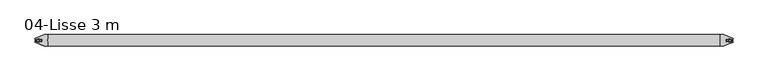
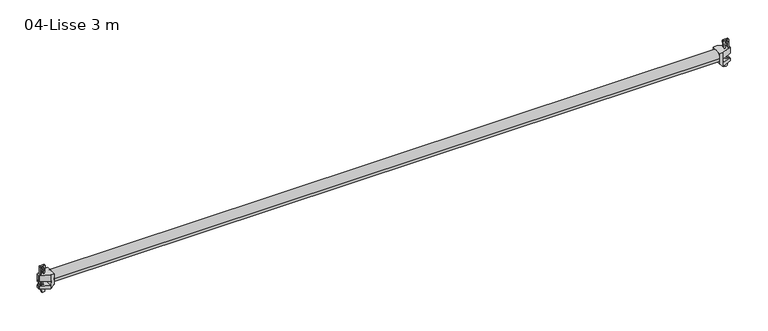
"""IFC4 building model written with IfcOpenShell, lengths in millimetres: proxy geometry, 04-Lisse 3 m : JPA Lisse Galva."""

from ifc_helpers import new_model, si_unit, point, frame, frame_2d, origin, place, context, project, spatial, polyline, circle_curve, ellipse_curve, trimmed, segment, composite_curve, outline, extrude, source, transform, mapped, element, save
from ifc_brep_helpers import plane_surface, cylinder_surface, revolved_surface, advanced_brep


def proxy_04_lisse_3_m_913477d2(model_context):
    return source(origin(), model_context, "Body", "SolidModel", [
        extrude(outline(composite_curve([segment(polyline([(30.0559866, 2969.2405729), (30.0559866, 2950.8224893)]), True, "CONTINUOUS"), segment(trimmed(circle_curve(frame_2d((27.9586511, 2951.1453232)), 2.1220363), [point((30.0559866, 2950.8224893))], [point((27.7368379, 2949.0349116))], False, "CARTESIAN"), True, "CONTINUOUS"), segment(polyline([(27.7368379, 2949.0349116), (-34.1039294, 2955.5346382), (-34.1039294, 2959.3897705), (15.3851783, 2954.1882557)]), True, "CONTINUOUS"), segment(trimmed(circle_curve(frame_2d((15.3851783, 2956.3590344)), 2.1707788), [point((15.3851783, 2954.1882557))], [point((17.5559571, 2956.3590344))], True, "CARTESIAN"), True, "CONTINUOUS"), segment(polyline([(17.5559571, 2956.3590344), (17.5559571, 2965.3988864)]), True, "CONTINUOUS"), segment(trimmed(circle_curve(frame_2d((15.3935931, 2965.3988864)), 2.162364), [point((17.5559571, 2965.3988864))], [point((15.3935931, 2967.5612504))], True, "CARTESIAN"), True, "CONTINUOUS"), segment(polyline([(15.3935931, 2967.5612504), (-34.1039294, 2967.5612504), (-34.1039294, 2971.4012504), (27.8953091, 2971.4012504)]), True, "CONTINUOUS"), segment(trimmed(circle_curve(frame_2d((27.8953091, 2969.2405729)), 2.1606775), [point((27.8953091, 2971.4012504))], [point((30.0559866, 2969.2405729))], False, "CARTESIAN"), True, "CONTINUOUS")], self_intersect=False), holes=[composite_curve([segment(trimmed(circle_curve(frame_2d((22.709669, 2961.5507539)), 3.8584192), [point((22.709669, 2965.4091731))], [point((22.709669, 2957.6923348))], True, "CARTESIAN"), True, "CONTINUOUS"), segment(trimmed(circle_curve(frame_2d((22.709669, 2961.5507539)), 3.8584192), [point((22.709669, 2957.6923348))], [point((22.709669, 2965.4091731))], True, "CARTESIAN"), True, "CONTINUOUS")], self_intersect=False)]), frame((0.0, -4.92044, 0.0), z_axis=(0.0, 1.0, 0.0), x_axis=(0.0, 0.0, 1.0)), (0.0, 0.0, 1.0), 7.5),
        extrude(outline(composite_curve([segment(polyline([(-86.5617303, 2951.139074), (-88.1008015, 2959.8675803)]), True, "CONTINUOUS"), segment(trimmed(circle_curve(frame_2d((-83.2111425, 2959.8675803)), 4.889659), [point((-88.1008015, 2959.8675803))], [point((-84.0602229, 2964.6829544))], False, "CARTESIAN"), True, "CONTINUOUS"), segment(polyline([(-84.0602229, 2964.6829544), (-53.7181948, 2970.0330726), (-53.0377938, 2957.0502485), (-86.5617303, 2951.139074)]), True, "CONTINUOUS")], self_intersect=False)), frame((0.0, -4.92044, 0.0), z_axis=(0.0, 1.0, 0.0), x_axis=(0.0, 0.0, 1.0)), (0.0, 0.0, 1.0), 7.5),
        advanced_brep(
        [(2937.8203998, 23.8029452, -6.1039294), (2922.6391277, 23.8029452, -6.1039294), (2922.6391277, -23.8029452, -6.1039294), (2937.8203998, -23.8029452, -6.1039294), (2977.1092204, -7.5511063, -6.1039294), (2975.6716098, 0.0, -6.1039294), (2977.1092204, 7.5511063, -6.1039294), (2937.8203998, 23.8029452, -68.1039294), (2977.1092204, 7.5511063, -68.1039294), (2975.6716098, 0.0, -68.1039294), (2977.1092204, -7.5511063, -68.1039294), (2937.8203998, -23.8029452, -68.1039294), (2933.9520332, -23.8029452, -68.1039294), (2933.9520332, 23.8029452, -68.1039294), (2977.1092204, 7.5511063, -34.1039294), (2937.8203998, 23.8029452, -34.1039294), (2937.8203998, 23.8029452, -46.831895), (2939.9125786, 22.9375144, -52.1184527), (2974.7434645, 8.5297023, -53.943862), (2977.1092204, 7.5511063, -56.3096179), (2975.6716098, 0.0, -34.1039294), (2975.6716098, 0.0, -54.8720074), (2977.1092204, -7.5511063, -34.1039294), (2977.1092204, -7.5511063, -56.3096179), (2937.8203998, -23.8029452, -34.1039294), (2974.7434645, -8.5297023, -53.943862), (2939.9125786, -22.9375144, -52.1184527), (2937.8203998, -23.8029452, -46.831895), (2922.6391277, -23.8029452, -54.0827798), (2924.1343185, -23.8029452, -54.0827798), (2935.5511063, -23.8029452, -41.0978005), (2935.5511063, -23.8029452, -34.1039294), (2922.6391277, 23.8029452, -54.0827798), (2935.5511063, 23.8029452, -34.1039294), (2935.5511063, 23.8029452, -41.0978005), (2924.1343185, 23.8029452, -54.0827798)],
        [
            (0, 1),
            (1, 2),
            (2, 3),
            (3, 4),
            (4, 5, circle_curve(frame((2995.4827463, -0.1406769, -6.1039294), z_axis=(0.0, 0.0, -1.0), x_axis=(-1.0, 0.0, 0.0)), 19.8116359)),
            (5, 6, circle_curve(frame((2995.4827463, 0.1406769, -6.1039294), z_axis=(0.0, 0.0, -1.0), x_axis=(-1.0, 0.0, 0.0)), 19.8116359)),
            (6, 0),
            (7, 8),
            (8, 9, circle_curve(frame((2995.4827463, 0.1406769, -68.1039294), z_axis=(0.0, 0.0, 1.0), x_axis=(-1.0, 0.0, 0.0)), 19.8116359)),
            (9, 10, circle_curve(frame((2995.4827463, -0.1406769, -68.1039294), z_axis=(0.0, 0.0, 1.0), x_axis=(-1.0, 0.0, 0.0)), 19.8116359)),
            (10, 11),
            (11, 12),
            (12, 13),
            (13, 7),
            (6, 14),
            (14, 15),
            (15, 0),
            (7, 16),
            (16, 17),
            (17, 18),
            (18, 19),
            (19, 8),
            (5, 20),
            (20, 14, circle_curve(frame((2995.4827463, 0.1406769, -34.1039294), z_axis=(0.0, 0.0, -1.0), x_axis=(-1.0, 0.0, 0.0)), 19.8116359)),
            (19, 21, ellipse_curve(frame((2995.4827463, 0.1406769, -74.6831438), z_axis=(0.7071067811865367, 0.0, 0.7071067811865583), x_axis=(0.7071067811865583, 0.0, -0.7071067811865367)), 28.0178842, 19.8116359)),
            (21, 9),
            (4, 22),
            (22, 20, circle_curve(frame((2995.4827463, -0.1406769, -34.1039294), z_axis=(0.0, 0.0, -1.0), x_axis=(-1.0, 0.0, 0.0)), 19.8116359)),
            (21, 23, ellipse_curve(frame((2995.4827463, -0.1406769, -74.6831438), z_axis=(0.7071067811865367, 0.0, 0.7071067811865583), x_axis=(0.7071067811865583, 0.0, -0.7071067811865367)), 28.0178842, 19.8116359)),
            (23, 10),
            (3, 24),
            (24, 22),
            (23, 25),
            (25, 26),
            (26, 27),
            (27, 11),
            (2, 28),
            (28, 29),
            (29, 12),
            (27, 30),
            (30, 31),
            (31, 24),
            (1, 32),
            (32, 28),
            (15, 33),
            (33, 34),
            (34, 16),
            (13, 35),
            (35, 32),
            (35, 29),
            (18, 25),
            (31, 33),
            (30, 34),
            (26, 17),
        ],
        [
            plane_surface(frame((2922.6391277, 23.8029452, -6.1039294), z_axis=(0.0, 0.0, 1.0), x_axis=(-1.0, 0.0, 0.0))),
            plane_surface(frame((2922.6391277, 23.8029452, -68.1039294), z_axis=(0.0, 0.0, -1.0), x_axis=(1.0, 0.0, 0.0))),
            plane_surface(frame((2977.1092204, 7.5511063, -6.1039294), z_axis=(0.3822392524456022, 0.924063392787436, 0.0), x_axis=(0.0, 0.0, -1.0))),
            revolved_surface(polyline([(2975.6711104, 0.1406769, -34.1039294), (2975.6711104, 0.1406769, -6.103929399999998)]), (2995.4827463, 0.1406769, -68.1039294), (0.0, 0.0, -1.0)),
            revolved_surface(polyline([(2975.6711104, 0.1406769, -94.49477971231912), (2975.6711104, 0.1406769, -54.87150788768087)]), (2995.4827463, 0.1406769, -68.1039294), (0.0, 0.0, -1.0)),
            revolved_surface(polyline([(2975.6711104, -0.1406769, -34.1039294), (2975.6711104, -0.1406769, -6.103929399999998)]), (2995.4827463, -0.1406769, -68.1039294), (0.0, 0.0, -1.0)),
            revolved_surface(polyline([(2975.6711104, -0.1406769, -94.49477971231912), (2975.6711104, -0.1406769, -54.87150788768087)]), (2995.4827463, -0.1406769, -68.1039294), (0.0, 0.0, -1.0)),
            plane_surface(frame((2937.8203998, -23.8029452, -6.1039294), z_axis=(0.3822392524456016, -0.9240633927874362, 0.0), x_axis=(0.0, 0.0, -1.0))),
            plane_surface(frame((2922.6391277, -23.8029452, -6.1039294), z_axis=(0.0, -1.0, 0.0), x_axis=(0.0, 0.0, -1.0))),
            plane_surface(frame((2922.6391277, 23.8029452, -6.1039294), z_axis=(-1.0, 0.0, 0.0), x_axis=(0.0, 0.0, -1.0))),
            plane_surface(frame((2937.8203998, 23.8029452, -6.1039294), z_axis=(0.0, 1.0, 0.0), x_axis=(0.0, 0.0, -1.0))),
            plane_surface(frame((2924.1343185, -49.3768281, -54.0827798), z_axis=(0.0, 0.0, -1.0), x_axis=(0.0, 1.0, 0.0))),
            plane_surface(frame((2935.6206564, -49.3768281, -70.4869703), z_axis=(-0.8191520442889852, 0.0, -0.5735764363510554), x_axis=(0.0, 1.0, 0.0))),
            plane_surface(frame((2974.7434645, -250.0, -53.943862), z_axis=(0.7071067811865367, 0.0, 0.7071067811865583), x_axis=(0.0, 1.0, 0.0))),
            plane_surface(frame((2977.5136246, -250.0, -34.1039294), z_axis=(0.0, 0.0, -1.0), x_axis=(0.0, 1.0, 0.0))),
            plane_surface(frame((2935.5511063, -250.0, -34.1039294), z_axis=(1.0, 0.0, 0.0), x_axis=(0.0, 1.0, 0.0))),
            plane_surface(frame((2935.5511063, -250.0, -41.0978005), z_axis=(0.9298317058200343, 0.0, 0.36798505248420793), x_axis=(0.0, 1.0, 0.0))),
            plane_surface(frame((2939.9125786, -250.0, -52.1184527), z_axis=(0.05233595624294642, 0.0, 0.9986295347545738), x_axis=(0.0, 1.0, 0.0))),
        ],
        [
            (0, [[1, 2, 3, 4, 5, 6, 7]]),
            (1, [[8, 9, 10, 11, 12, 13, 14]]),
            (2, [[-7, 15, 16, 17]]),
            (2, [[-8, 18, 19, 20, 21, 22]]),
            (3, [[-6, 23, 24, -15]]),
            (4, [[-9, -22, 25, 26]]),
            (5, [[-5, 27, 28, -23]]),
            (6, [[-10, -26, 29, 30]]),
            (7, [[-4, 31, 32, -27]]),
            (7, [[-11, -30, 33, 34, 35, 36]]),
            (8, [[-3, 37, 38, 39, -12, -36, 40, 41, 42, -31]]),
            (9, [[-2, 43, 44, -37]]),
            (10, [[-1, -17, 45, 46, 47, -18, -14, 48, 49, -43]]),
            (11, [[50, -38, -44, -49]]),
            (12, [[-50, -48, -13, -39]]),
            (13, [[51, -33, -29, -25, -21]]),
            (14, [[52, -45, -16, -24, -28, -32, -42]]),
            (15, [[-52, -41, 53, -46]]),
            (16, [[-53, -40, -35, 54, -19, -47]]),
            (17, [[-51, -20, -54, -34]]),
        ],
    ),
        extrude(outline(composite_curve([segment(trimmed(circle_curve(frame_2d((22.709669, 2961.5507539)), 3.8584192), [point((22.709669, 2957.6923348))], [point((22.709669, 2965.4091731))], False, "CARTESIAN"), True, "CONTINUOUS"), segment(trimmed(circle_curve(frame_2d((22.709669, 2961.5507539)), 3.8584192), [point((22.709669, 2965.4091731))], [point((22.709669, 2957.6923348))], False, "CARTESIAN"), True, "CONTINUOUS")], self_intersect=False)), frame((0.0, -7.92044, 0.0), z_axis=(0.0, 1.0, 0.0), x_axis=(0.0, 0.0, 1.0)), (0.0, 0.0, 1.0), 13.5),
        extrude(outline(composite_curve([segment(polyline([(23.5, 7.1698137), (37.9373581, 13.151297)]), True, "CONTINUOUS"), segment(trimmed(circle_curve(frame_2d((40.2365018, 7.6019107)), 6.0068087), [point((37.9373581, 13.151297))], [point((46.1300628, 8.762811))], False, "CARTESIAN"), True, "CONTINUOUS"), segment(trimmed(circle_curve(frame_2d((0.6271733, -0.200245)), 46.3772501), [point((46.1300628, 8.762811))], [point((46.9210391, 2.57956))], False, "CARTESIAN"), True, "CONTINUOUS"), segment(polyline([(46.9210391, 2.57956), (43.8403003, 2.57956), (39.9850248, 2.57956), (32.4387496, 2.57956), (28.5987496, 2.57956), (28.5987496, 0.0), (24.6512409, 0.0)]), True, "CONTINUOUS"), segment(trimmed(circle_curve(frame_2d((0.5020711, -0.200245)), 24.15), [point((24.6512409, 0.0))], [point((23.5, 7.1698137))], True, "CARTESIAN"), True, "CONTINUOUS")], self_intersect=False)), frame((0.0, 0.0, -40.1039294), z_axis=(0.0, 0.0, 1.0), x_axis=(1.0, 0.0, 0.0)), (0.0, 0.0, 1.0), 6.0),
        advanced_brep(
        [(30.7594271, -4.92044, 30.0559866), (28.5987496, -4.92044, 27.8953091), (28.5987496, -4.92044, -34.1039294), (32.4387496, -4.92044, -34.1039294), (32.4387496, -4.92044, 15.3935931), (34.6011136, -4.92044, 17.5559571), (43.6409656, -4.92044, 17.5559571), (45.8117443, -4.92044, 15.3851783), (40.6102295, -4.92044, -34.1039294), (44.4653618, -4.92044, -34.1039294), (50.9650884, -4.92044, 27.7368379), (49.1775107, -4.92044, 30.0559866), (34.5908269, -4.92044, 22.709669), (42.3076652, -4.92044, 22.709669), (35.3170456, -4.92044, -84.0602229), (40.1324197, -4.92044, -88.1008015), (48.860926, -4.92044, -86.5617303), (42.9497515, -4.92044, -53.0377938), (29.9669274, -4.92044, -53.7181948), (30.7594271, 2.57956, 30.0559866), (49.1775107, 2.57956, 30.0559866), (50.9650884, 2.57956, 27.7368379), (42.6525106, 2.57956, -51.3520566), (48.860926, 2.57956, -86.5617303), (40.1324197, 2.57956, -88.1008015), (35.3170456, 2.57956, -84.0602229), (28.5987496, 2.57956, -45.9588727), (28.5987496, 2.57956, 27.8953091), (32.4387496, 2.57956, 15.3935931), (32.4387496, 2.57956, -51.5938159), (36.2832188, 2.57956, -51.795296), (38.9102025, 2.57956, -50.2786063), (45.8117443, 2.57956, 15.3851783), (43.6409656, 2.57956, 17.5559571), (34.6011136, 2.57956, 17.5559571), (34.5908269, 2.57956, 22.709669), (42.3076652, 2.57956, 22.709669), (28.5987496, 0.0, -45.9588727), (28.5987496, 0.0, -34.1039294), (29.9669274, 0.0, -53.7181948), (42.6525106, 0.0, -51.3520566), (42.9497515, 0.0, -53.0377938), (44.4653618, 0.0, -34.1039294), (38.9102025, 0.0, -50.2786063), (40.6102295, 0.0, -34.1039294), (36.2832188, 0.0, -51.795296), (32.4387496, 0.0, -51.5938159), (32.4387496, 0.0, -34.1039294)],
        [
            (0, 1, circle_curve(frame((30.7594271, -4.92044, 27.8953091), z_axis=(0.0, -1.0, 0.0), x_axis=(1.0, 0.0, 0.0)), 2.1606775)),
            (1, 2),
            (2, 3),
            (3, 4),
            (4, 5, circle_curve(frame((34.6011136, -4.92044, 15.3935931), z_axis=(0.0, 1.0, 0.0), x_axis=(1.0, 0.0, 0.0)), 2.162364)),
            (5, 6),
            (6, 7, circle_curve(frame((43.6409656, -4.92044, 15.3851783), z_axis=(0.0, 1.0, 0.0), x_axis=(1.0, 0.0, 0.0)), 2.1707788)),
            (7, 8),
            (8, 9),
            (9, 10),
            (10, 11, circle_curve(frame((48.8546768, -4.92044, 27.9586511), z_axis=(0.0, -1.0, 0.0), x_axis=(1.0, 0.0, 0.0)), 2.1220363)),
            (11, 0),
            (12, 13, circle_curve(frame((38.4492461, -4.92044, 22.709669), z_axis=(0.0, 1.0, 0.0), x_axis=(1.0, 0.0, 0.0)), 3.8584192)),
            (13, 12, circle_curve(frame((38.4492461, -4.92044, 22.709669), z_axis=(0.0, 1.0, 0.0), x_axis=(1.0, 0.0, 0.0)), 3.8584192)),
            (14, 15, circle_curve(frame((40.1324197, -4.92044, -83.2111425), z_axis=(0.0, -1.0, 0.0), x_axis=(1.0, 0.0, 0.0)), 4.889659)),
            (15, 16),
            (16, 17),
            (17, 18),
            (18, 14),
            (19, 20),
            (20, 21, circle_curve(frame((48.8546768, 2.57956, 27.9586511), z_axis=(0.0, 1.0, 0.0), x_axis=(1.0, 0.0, 0.0)), 2.1220363)),
            (21, 22),
            (22, 23),
            (23, 24),
            (24, 25, circle_curve(frame((40.1324197, 2.57956, -83.2111425), z_axis=(0.0, 1.0, 0.0), x_axis=(1.0, 0.0, 0.0)), 4.889659)),
            (25, 26),
            (26, 27),
            (27, 19, circle_curve(frame((30.7594271, 2.57956, 27.8953091), z_axis=(0.0, 1.0, 0.0), x_axis=(1.0, 0.0, 0.0)), 2.1606775)),
            (28, 29),
            (29, 30),
            (30, 31, circle_curve(frame((36.4289619, 2.57956, -49.0143511), z_axis=(0.0, -1.0, 0.0), x_axis=(1.0, 0.0, 0.0)), 2.7847613)),
            (31, 32),
            (32, 33, circle_curve(frame((43.6409656, 2.57956, 15.3851783), z_axis=(0.0, -1.0, 0.0), x_axis=(1.0, 0.0, 0.0)), 2.1707788)),
            (33, 34),
            (34, 28, circle_curve(frame((34.6011136, 2.57956, 15.3935931), z_axis=(0.0, -1.0, 0.0), x_axis=(1.0, 0.0, 0.0)), 2.162364)),
            (35, 36, circle_curve(frame((38.4492461, 2.57956, 22.709669), z_axis=(0.0, -1.0, 0.0), x_axis=(1.0, 0.0, 0.0)), 3.8584192)),
            (36, 35, circle_curve(frame((38.4492461, 2.57956, 22.709669), z_axis=(0.0, -1.0, 0.0), x_axis=(1.0, 0.0, 0.0)), 3.8584192)),
            (0, 19),
            (27, 1),
            (26, 37),
            (37, 38),
            (38, 2),
            (25, 14),
            (18, 39),
            (39, 37),
            (24, 15),
            (23, 16),
            (22, 40),
            (40, 41),
            (41, 17),
            (21, 10),
            (9, 42),
            (42, 40),
            (20, 11),
            (4, 28),
            (34, 5),
            (33, 6),
            (32, 7),
            (31, 43),
            (43, 44),
            (44, 8),
            (30, 45),
            (45, 43, circle_curve(frame((36.4289619, 0.0, -49.0143511), z_axis=(0.0, -1.0, 0.0), x_axis=(1.0, 0.0, 0.0)), 2.7847613)),
            (29, 46),
            (46, 45),
            (3, 47),
            (47, 46),
            (12, 35),
            (36, 13),
            (39, 41),
            (42, 44),
            (47, 38),
        ],
        [
            plane_surface(frame((32.9201046, -4.92044, 27.8953091), z_axis=(0.0, -1.0, 0.0), x_axis=(0.0, 0.0, 1.0))),
            plane_surface(frame((32.9201046, 2.57956, 27.8953091), z_axis=(0.0, 1.0, 0.0), x_axis=(0.0, 0.0, -1.0))),
            cylinder_surface(frame((30.7594271, 2.57956, 27.8953091), z_axis=(0.0, -1.0, 0.0), x_axis=(1.0, 0.0, 0.0)), 2.1606775),
            plane_surface(frame((28.5987496, -4.92044, 27.8953091), z_axis=(-1.0, 0.0, 0.0), x_axis=(0.0, 1.0, 0.0))),
            plane_surface(frame((28.5987496, -4.92044, -45.9588727), z_axis=(-0.9848077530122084, 0.0, -0.17364817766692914), x_axis=(0.0, 1.0, 0.0))),
            cylinder_surface(frame((40.1324197, 2.57956, -83.2111425), z_axis=(0.0, -1.0, 0.0), x_axis=(1.0, 0.0, 0.0)), 4.889659),
            plane_surface(frame((40.1324197, -4.92044, -88.1008015), z_axis=(0.1736481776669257, 0.0, -0.9848077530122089), x_axis=(0.0, 1.0, 0.0))),
            plane_surface(frame((48.860926, -4.92044, -86.5617303), z_axis=(0.9848077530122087, 0.0, 0.1736481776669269), x_axis=(0.0, 1.0, 0.0))),
            plane_surface(frame((42.6525106, -4.92044, -51.3520566), z_axis=(0.9945218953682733, 0.0, -0.10452846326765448), x_axis=(0.0, 1.0, 0.0))),
            cylinder_surface(frame((48.8546768, 2.57956, 27.9586511), z_axis=(0.0, -1.0, 0.0), x_axis=(1.0, 0.0, 0.0)), 2.1220363),
            plane_surface(frame((49.1775107, -4.92044, 30.0559866), z_axis=(0.0, 0.0, 1.0), x_axis=(0.0, 1.0, 0.0))),
            revolved_surface(polyline([(36.7634776, 2.57956, 15.3935931), (36.7634776, -4.92044, 15.3935931)]), (34.6011136, 0.0, 15.3935931), (0.0, 1.0, 0.0)),
            plane_surface(frame((34.6011136, -4.92044, 17.5559571), z_axis=(0.0, 0.0, -1.0), x_axis=(0.0, 1.0, 0.0))),
            revolved_surface(polyline([(45.8117444, 2.57956, 15.3851783), (45.8117444, -4.92044, 15.3851783)]), (43.6409656, 0.0, 15.3851783), (0.0, 1.0, 0.0)),
            plane_surface(frame((45.8117443, -4.92044, 15.3851783), z_axis=(-0.9945218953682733, 0.0, 0.10452846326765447), x_axis=(0.0, 1.0, 0.0))),
            revolved_surface(polyline([(39.2137232, 2.57956, -49.0143511), (39.2137232, 0.0, -49.0143511)]), (36.4289619, 0.0, -49.0143511), (0.0, 1.0, 0.0)),
            plane_surface(frame((36.2832188, -4.92044, -51.795296), z_axis=(0.052335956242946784, 0.0, 0.9986295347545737), x_axis=(0.0, 1.0, 0.0))),
            plane_surface(frame((32.4387496, -4.92044, -51.5938159), z_axis=(1.0, 0.0, 0.0), x_axis=(0.0, 1.0, 0.0))),
            revolved_surface(polyline([(42.307665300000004, 2.57956, 22.709669), (42.307665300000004, -4.92044, 22.709669)]), (38.4492461, 0.0, 22.709669), (0.0, 1.0, 0.0)),
            plane_surface(frame((19.8532979, 0.0, -34.1039294), z_axis=(0.0, -1.0, 0.0), x_axis=(0.0, 0.0, 1.0))),
            plane_surface(frame((25.6609397, -250.0, -53.943862), z_axis=(-0.05233595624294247, 0.0, 0.998629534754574), x_axis=(0.0, 1.0, 0.0))),
            plane_surface(frame((64.8532979, -250.0, -34.1039294), z_axis=(0.0, 0.0, -1.0), x_axis=(0.0, 1.0, 0.0))),
        ],
        [
            (0, [[1, 2, 3, 4, 5, 6, 7, 8, 9, 10, 11, 12], [13, 14]]),
            (0, [[15, 16, 17, 18, 19]]),
            (1, [[20, 21, 22, 23, 24, 25, 26, 27, 28], [29, 30, 31, 32, 33, 34, 35], [36, 37]]),
            (2, [[-1, 38, -28, 39]]),
            (3, [[-27, 40, 41, 42, -2, -39]]),
            (4, [[-26, 43, -19, 44, 45, -40]]),
            (5, [[-15, -43, -25, 46]]),
            (6, [[-16, -46, -24, 47]]),
            (7, [[-23, 48, 49, 50, -17, -47]]),
            (8, [[-22, 51, -10, 52, 53, -48]]),
            (9, [[-11, -51, -21, 54]]),
            (10, [[-12, -54, -20, -38]]),
            (11, [[-5, 55, -35, 56]]),
            (12, [[-6, -56, -34, 57]]),
            (13, [[-7, -57, -33, 58]]),
            (14, [[-32, 59, 60, 61, -8, -58]]),
            (15, [[-31, 62, 63, -59]]),
            (16, [[-30, 64, 65, -62]]),
            (17, [[-29, -55, -4, 66, 67, -64]]),
            (18, [[-13, 68, -37, 69]]),
            (18, [[-14, -69, -36, -68]]),
            (19, [[70, -49, -53, 71, -60, -63, -65, -67, 72, -41, -45]]),
            (20, [[-70, -44, -18, -50]]),
            (21, [[-71, -52, -9, -61]]),
            (21, [[-72, -66, -3, -42]]),
        ],
    ),
        extrude(outline(composite_curve([segment(trimmed(circle_curve(frame_2d((0.0, -29.9068746)), 23.9423125), [point((-23.9423125, -29.9068746))], [point((23.9423125, -29.9068746))], False, "CARTESIAN"), True, "CONTINUOUS"), segment(trimmed(circle_curve(frame_2d((0.0, -29.9068746)), 23.9423125), [point((23.9423125, -29.9068746))], [point((-23.9423125, -29.9068746))], False, "CARTESIAN"), True, "CONTINUOUS")], self_intersect=False)), frame((77.3608723, 0.0, 0.0), z_axis=(1.0, 0.0, 0.0), x_axis=(0.0, 1.0, 0.0)), (0.0, 0.0, 1.0), 2845.2782554),
        extrude(outline(composite_curve([segment(trimmed(circle_curve(frame_2d((22.709669, 38.4492461)), 3.8584192), [point((22.709669, 42.3076652))], [point((22.709669, 34.5908269))], False, "CARTESIAN"), True, "CONTINUOUS"), segment(trimmed(circle_curve(frame_2d((22.709669, 38.4492461)), 3.8584192), [point((22.709669, 34.5908269))], [point((22.709669, 42.3076652))], False, "CARTESIAN"), True, "CONTINUOUS")], self_intersect=False)), frame((0.0, -7.92044, 0.0), z_axis=(0.0, 1.0, 0.0), x_axis=(0.0, 0.0, 1.0)), (0.0, 0.0, 1.0), 13.5),
        advanced_brep(
        [(62.1796002, 23.8029452, -6.1039294), (22.8907796, 7.5511063, -6.1039294), (24.3283902, 0.0, -6.1039294), (22.8907796, -7.5511063, -6.1039294), (62.1796002, -23.8029452, -6.1039294), (77.3608723, -23.8029452, -6.1039294), (77.3608723, 23.8029452, -6.1039294), (62.1796002, -23.8029452, -68.1039294), (22.8907796, -7.5511063, -68.1039294), (24.3283902, 0.0, -68.1039294), (22.8907796, 7.5511063, -68.1039294), (62.1796002, 23.8029452, -68.1039294), (66.0479668, 23.8029452, -68.1039294), (66.0479668, -23.8029452, -68.1039294), (62.1796002, 23.8029452, -34.1039294), (22.8907796, 7.5511063, -34.1039294), (22.8907796, 7.5511063, -56.7140221), (25.6609397, 8.6969843, -53.943862), (60.4918255, 23.1047964, -52.1184527), (62.1796002, 23.8029452, -47.8537512), (24.3283902, 0.0, -34.1039294), (24.3283902, 0.0, -55.2764116), (22.8907796, -7.5511063, -34.1039294), (22.8907796, -7.5511063, -56.7140221), (62.1796002, -23.8029452, -34.1039294), (62.1796002, -23.8029452, -47.8537512), (60.4918255, -23.1047964, -52.1184527), (25.6609397, -8.6969843, -53.943862), (64.8532979, -23.8029452, -34.1039294), (64.8532979, -23.8029452, -41.0978005), (75.8656815, -23.8029452, -54.0827798), (77.3608723, -23.8029452, -54.0827798), (77.3608723, 23.8029452, -54.0827798), (75.8656815, 23.8029452, -54.0827798), (64.8532979, 23.8029452, -41.0978005), (64.8532979, 23.8029452, -34.1039294), (64.8532979, 0.0, -34.1039294), (25.6609397, 0.0, -53.943862), (60.4918255, 0.0, -52.1184527), (64.8532979, 0.0, -41.0978005)],
        [
            (0, 1),
            (1, 2, circle_curve(frame((4.5172537, 0.1406769, -6.1039294), z_axis=(0.0, 0.0, -1.0), x_axis=(1.0, 0.0, 0.0)), 19.8116359)),
            (2, 3, circle_curve(frame((4.5172537, -0.1406769, -6.1039294), z_axis=(0.0, 0.0, -1.0), x_axis=(1.0, 0.0, 0.0)), 19.8116359)),
            (3, 4),
            (4, 5),
            (5, 6),
            (6, 0),
            (7, 8),
            (8, 9, circle_curve(frame((4.5172537, -0.1406769, -68.1039294), z_axis=(0.0, 0.0, 1.0), x_axis=(1.0, 0.0, 0.0)), 19.8116359)),
            (9, 10, circle_curve(frame((4.5172537, 0.1406769, -68.1039294), z_axis=(0.0, 0.0, 1.0), x_axis=(1.0, 0.0, 0.0)), 19.8116359)),
            (10, 11),
            (11, 12),
            (12, 13),
            (13, 7),
            (0, 14),
            (14, 15),
            (15, 1),
            (10, 16),
            (16, 17),
            (17, 18),
            (18, 19),
            (19, 11),
            (15, 20, circle_curve(frame((4.5172537, 0.1406769, -34.1039294), z_axis=(0.0, 0.0, -1.0), x_axis=(1.0, 0.0, 0.0)), 19.8116359)),
            (20, 2),
            (9, 21),
            (21, 16, ellipse_curve(frame((4.5172537, 0.1406769, -75.087548), z_axis=(-0.7071067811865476, 0.0, 0.7071067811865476), x_axis=(-0.7071067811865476, 0.0, -0.7071067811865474)), 28.0178842, 19.8116359)),
            (20, 22, circle_curve(frame((4.5172537, -0.1406769, -34.1039294), z_axis=(0.0, 0.0, -1.0), x_axis=(1.0, 0.0, 0.0)), 19.8116359)),
            (22, 3),
            (8, 23),
            (23, 21, ellipse_curve(frame((4.5172537, -0.1406769, -75.087548), z_axis=(-0.7071067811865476, 0.0, 0.7071067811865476), x_axis=(-0.7071067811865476, 0.0, -0.7071067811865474)), 28.0178842, 19.8116359)),
            (22, 24),
            (24, 4),
            (7, 25),
            (25, 26),
            (26, 27),
            (27, 23),
            (24, 28),
            (28, 29),
            (29, 25),
            (13, 30),
            (30, 31),
            (31, 5),
            (31, 32),
            (32, 6),
            (32, 33),
            (33, 12),
            (19, 34),
            (34, 35),
            (35, 14),
            (30, 33),
            (35, 36),
            (36, 28),
            (27, 37),
            (37, 17),
            (26, 38),
            (38, 18),
            (29, 39),
            (39, 34),
        ],
        [
            plane_surface(frame((64.4727058, 24.7514894, -6.1039294), z_axis=(0.0, 0.0, 1.0000000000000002), x_axis=(-0.9240633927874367, -0.38223925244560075, 0.0))),
            plane_surface(frame((64.4727058, 24.7514894, -68.1039294), z_axis=(0.0, 0.0, -1.0000000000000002), x_axis=(0.9240633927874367, 0.38223925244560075, 0.0))),
            plane_surface(frame((62.1796002, 23.8029452, -6.1039294), z_axis=(-0.38223925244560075, 0.9240633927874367, 0.0), x_axis=(0.0, 0.0, -1.0))),
            revolved_surface(polyline([(24.3288896, 0.1406769, -34.1039294), (24.3288896, 0.1406769, -6.103929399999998)]), (4.5172537, 0.1406769, -68.1039294), (0.0, 0.0, -1.0)),
            revolved_surface(polyline([(24.3288896, 0.1406769, -94.89918391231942), (24.3288896, 0.1406769, -55.275912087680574)]), (4.5172537, 0.1406769, -68.1039294), (0.0, 0.0, -1.0)),
            revolved_surface(polyline([(24.3288896, -0.1406769, -34.1039294), (24.3288896, -0.1406769, -6.103929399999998)]), (4.5172537, -0.1406769, -68.1039294), (0.0, 0.0, -1.0)),
            revolved_surface(polyline([(24.3288896, -0.1406769, -94.89918391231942), (24.3288896, -0.1406769, -55.275912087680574)]), (4.5172537, -0.1406769, -68.1039294), (0.0, 0.0, -1.0)),
            plane_surface(frame((22.8907796, -7.5511063, -6.1039294), z_axis=(-0.3822392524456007, -0.9240633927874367, 0.0), x_axis=(0.0, 0.0, -1.0))),
            plane_surface(frame((62.1796002, -23.8029452, -6.1039294), z_axis=(0.0, -1.0, 0.0), x_axis=(0.0, 0.0, -1.0))),
            plane_surface(frame((77.3608723, -23.8029452, -6.1039294), z_axis=(1.0, 0.0, 0.0), x_axis=(0.0, 0.0, -1.0))),
            plane_surface(frame((77.3608723, 23.8029452, -6.1039294), z_axis=(0.0, 1.0, 0.0), x_axis=(0.0, 0.0, -1.0))),
            plane_surface(frame((79.3793436, -49.3768281, -54.0827798), z_axis=(0.0, 0.0, -1.0), x_axis=(0.0, 1.0, 0.0))),
            plane_surface(frame((75.8656815, -49.3768281, -54.0827798), z_axis=(0.8191520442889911, 0.0, -0.5735764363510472), x_axis=(0.0, 1.0, 0.0))),
            plane_surface(frame((64.8532979, -49.3768281, -34.1039294), z_axis=(0.0, 0.0, -1.0), x_axis=(0.0, 1.0, 0.0))),
            plane_surface(frame((21.4312124, -49.3768281, -58.1735894), z_axis=(-0.7071067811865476, 0.0, 0.7071067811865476), x_axis=(0.0, 1.0, 0.0))),
            plane_surface(frame((25.6609397, -49.3768281, -53.943862), z_axis=(-0.05233595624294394, 0.0, 0.9986295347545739), x_axis=(0.0, 1.0, 0.0))),
            plane_surface(frame((60.4918255, -49.3768281, -52.1184527), z_axis=(-0.9298317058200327, 0.0, 0.36798505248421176), x_axis=(0.0, 1.0, 0.0))),
            plane_surface(frame((64.8532979, -49.3768281, -41.0978005), z_axis=(-1.0, 0.0, 0.0), x_axis=(0.0, 1.0, 0.0))),
        ],
        [
            (0, [[1, 2, 3, 4, 5, 6, 7]]),
            (1, [[8, 9, 10, 11, 12, 13, 14]]),
            (2, [[-1, 15, 16, 17]]),
            (2, [[-11, 18, 19, 20, 21, 22]]),
            (3, [[-2, -17, 23, 24]]),
            (4, [[-10, 25, 26, -18]]),
            (5, [[-3, -24, 27, 28]]),
            (6, [[-9, 29, 30, -25]]),
            (7, [[-4, -28, 31, 32]]),
            (7, [[-8, 33, 34, 35, 36, -29]]),
            (8, [[-5, -32, 37, 38, 39, -33, -14, 40, 41, 42]]),
            (9, [[-6, -42, 43, 44]]),
            (10, [[-7, -44, 45, 46, -12, -22, 47, 48, 49, -15]]),
            (11, [[50, -45, -43, -41]]),
            (12, [[-50, -40, -13, -46]]),
            (13, [[-16, -49, 51, 52, -37, -31, -27, -23]]),
            (14, [[-19, -26, -30, -36, 53, 54]]),
            (15, [[-20, -54, -53, -35, 55, 56]]),
            (16, [[-21, -56, -55, -34, -39, 57, 58, -47]]),
            (17, [[-38, -52, -51, -48, -58, -57]]),
        ],
    ),
    ])


if __name__ == "__main__":
    model = new_model("IFC4")
    model_context = context("Model", 3, world=origin())
    ifc_project = project(units=[si_unit("LENGTHUNIT", "METRE", prefix="MILLI")], contexts=[model_context])
    site = spatial("IfcSite", under=ifc_project)
    building = spatial("IfcBuilding", under=site)
    placement = place(None, origin())
    proxy_04_lisse_3_m_shape = proxy_04_lisse_3_m_913477d2(model_context)
    element("IfcBuildingElementProxy", 1, Name="04-Lisse 3 m : JPA Lisse Galva", ObjectType="04-Lisse 3 m : JPA Lisse Galva", at=placement, inside=building, context=model_context, shape_type="MappedRepresentation", body=[
        mapped(proxy_04_lisse_3_m_shape, transform((0.0, 0.0, 0.0), x_axis=(1.0, 0.0, 0.0), y_axis=(0.0, 1.0, 0.0), z_axis=(0.0, 0.0, 1.0))),
    ])
    save(model, "model.ifc")
